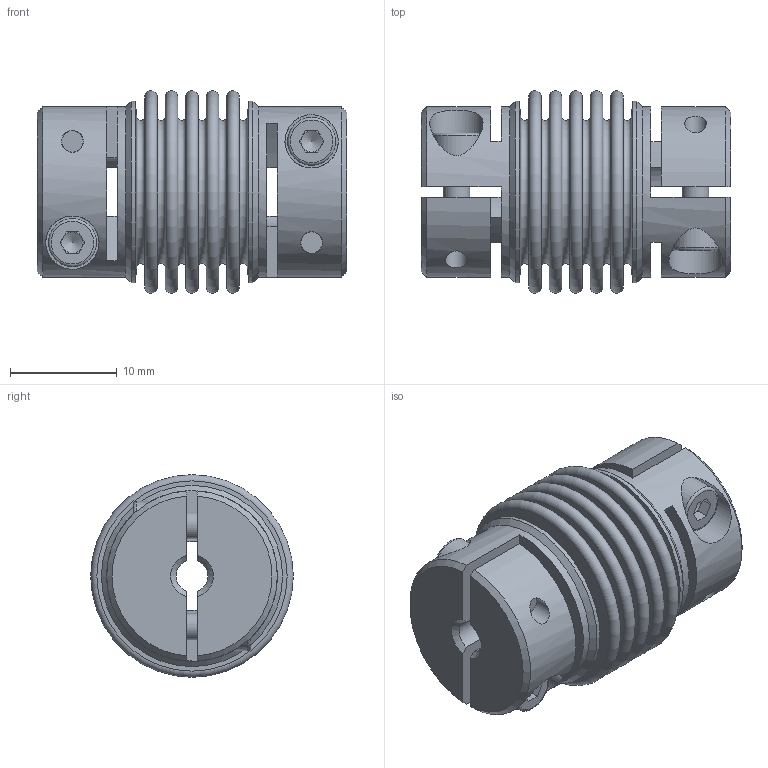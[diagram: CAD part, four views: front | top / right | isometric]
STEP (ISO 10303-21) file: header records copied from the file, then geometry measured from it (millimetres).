
FILE_DESCRIPTION(/* description */ ('Unknown'),/* implementation_level */ '2;1');
FILE_NAME(/* name */ 'MKG-VA 1,5 - 5W',/* time_stamp */ '2020-06-25T08:51:00+02:00',/* author */ ('Unknown'),/* organization */ ('Unknown'),/* preprocessor_version */ 'ST-DEVELOPER v16.7',/* originating_system */ 'DEX',/* authorisation */ $);
FILE_SCHEMA (('AUTOMOTIVE_DESIGN {1 0 10303 214 3 1 1}'));
Length unit declared in the file: millimetre
Products named in the file (1): MKG-VA 1,5 - 5W
Bounding box: 29.03 x 19 x 19 mm (x, y, z)
Volume: 3175.1 mm3; surface area: 6920.8 mm2
Topology: 1 solids, 1 shells, 192 faces, 424 edges, 270 vertices
Faces by surface type: plane 106, cylinder 36, torus 26, cone 24
Full cylindrical faces by diameter (mm): 2.05 x4, 2.5 x4, 2.8 x4, 4.5 x4, 5 x4, 6.5 x2, 16 x2, 16.6 x2, 17 x2
Entity records: 6294 total; most frequent: CARTESIAN_POINT 933, DIRECTION 878, ORIENTED_EDGE 668, AXIS2_PLACEMENT_3D 367, EDGE_CURVE 334, FACE_BOUND 312, EDGE_LOOP 308, VERTEX_POINT 254
